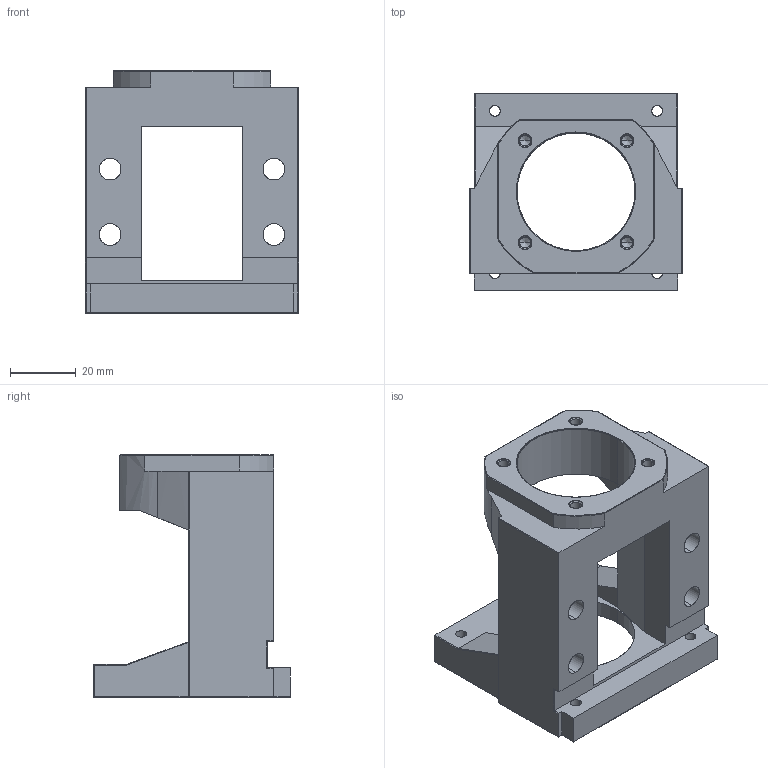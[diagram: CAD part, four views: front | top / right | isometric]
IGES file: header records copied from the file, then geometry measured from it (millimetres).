
Start section: SolidWorks IGES file using analytic representation for surfaces
Global section: file name: C:\Users\117\Desktop\1061208網站3D圖檔問題處理\傳動座\外露型\MBA\MBA12-DP.IGS,15HSolidWorks; native system: 2017; preprocessor: SolidWorks 2017; author: 117; date: 171228.135709; units: millimetre
Bounding box: 65 x 60 x 74 mm (x, y, z)
Surface area: 27041.5 mm2 (no closed solid volume)
Topology: 0 solids, 0 shells, 189 faces, 2300 edges, 2286 vertices
Faces by surface type: revolution 114, bspline 75
